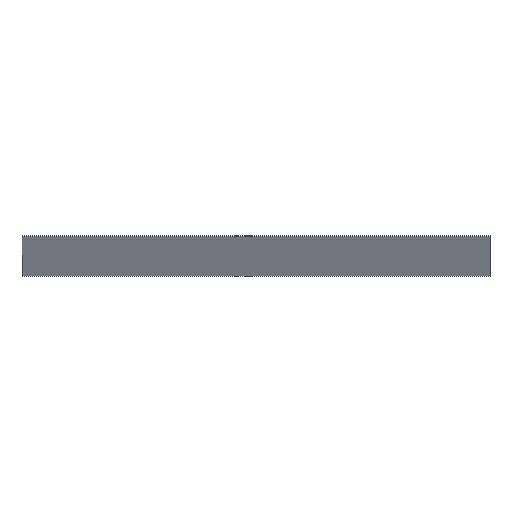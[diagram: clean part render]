
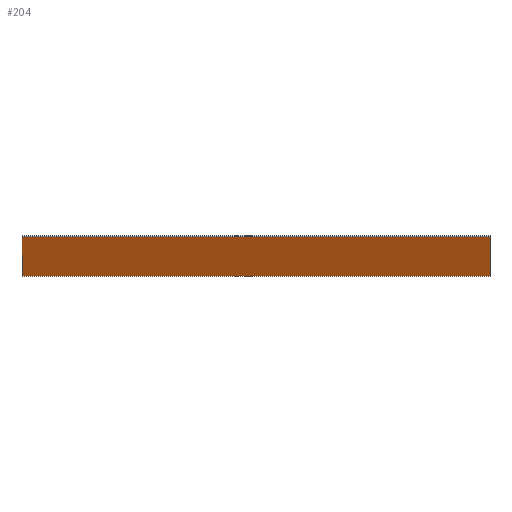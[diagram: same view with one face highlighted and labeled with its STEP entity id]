
A CAD part, left-side view. The second image highlights one B-rep face of the part: STEP entity #204.
In plain terms, the highlighted planar face has unit normal (-0.906, 0, -0.423).
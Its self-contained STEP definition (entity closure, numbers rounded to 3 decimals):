
#44 = PLANE('',#45);
#45 = AXIS2_PLACEMENT_3D('',#46,#47,#48);
#46 = CARTESIAN_POINT('',(175.086,-110.,12.388));
#47 = DIRECTION('',(-0.,-1.,0.));
#48 = DIRECTION('',(-0.475,0.,0.88));
#70 = PLANE('',#71);
#71 = AXIS2_PLACEMENT_3D('',#72,#73,#74);
#72 = CARTESIAN_POINT('',(170.733,-0.15,21.723));
#73 = DIRECTION('',(0.423,0.,-0.906));
#74 = DIRECTION('',(-0.906,0.,-0.423));
#97 = PLANE('',#98);
#98 = AXIS2_PLACEMENT_3D('',#99,#100,#101);
#99 = CARTESIAN_POINT('',(175.086,-0.15,12.388));
#100 = DIRECTION('',(-0.,-1.,0.));
#101 = DIRECTION('',(-0.475,0.,0.88));
#121 = PLANE('',#122);
#122 = AXIS2_PLACEMENT_3D('',#123,#124,#125);
#123 = CARTESIAN_POINT('',(174.542,-0.15,12.134));
#124 = DIRECTION('',(-0.423,0.,0.906));
#125 = DIRECTION('',(0.906,0.,0.423));
#136 = VERTEX_POINT('',#137);
#137 = CARTESIAN_POINT('',(170.189,-110.,21.469));
#158 = EDGE_CURVE('',#136,#159,#161,.T.);
#159 = VERTEX_POINT('',#160);
#160 = CARTESIAN_POINT('',(170.189,-0.15,21.469));
#161 = SURFACE_CURVE('',#162,(#165,#171),.PCURVE_S1.);
#162 = B_SPLINE_CURVE_WITH_KNOTS('',1,(#163,#164),.UNSPECIFIED.,.F.,.F.,
  (2,2),(0.,1.),.PIECEWISE_BEZIER_KNOTS.);
#163 = CARTESIAN_POINT('',(170.189,-110.,21.469));
#164 = CARTESIAN_POINT('',(170.189,-0.15,21.469));
#165 = PCURVE('',#70,#166);
#166 = DEFINITIONAL_REPRESENTATION('',(#167),#170);
#167 = B_SPLINE_CURVE_WITH_KNOTS('',1,(#168,#169),.UNSPECIFIED.,.F.,.F.,
  (2,2),(0.,1.),.PIECEWISE_BEZIER_KNOTS.);
#168 = CARTESIAN_POINT('',(0.6,-109.85));
#169 = CARTESIAN_POINT('',(0.6,0.));
#170 = ( GEOMETRIC_REPRESENTATION_CONTEXT(2) 
PARAMETRIC_REPRESENTATION_CONTEXT() REPRESENTATION_CONTEXT('2D SPACE',''
  ) );
#171 = PCURVE('',#172,#177);
#172 = PLANE('',#173);
#173 = AXIS2_PLACEMENT_3D('',#174,#175,#176);
#174 = CARTESIAN_POINT('',(170.189,-0.15,21.469));
#175 = DIRECTION('',(0.906,-0.,0.423));
#176 = DIRECTION('',(0.423,0.,-0.906));
#177 = DEFINITIONAL_REPRESENTATION('',(#178),#181);
#178 = B_SPLINE_CURVE_WITH_KNOTS('',1,(#179,#180),.UNSPECIFIED.,.F.,.F.,
  (2,2),(0.,1.),.PIECEWISE_BEZIER_KNOTS.);
#179 = CARTESIAN_POINT('',(0.,-109.85));
#180 = CARTESIAN_POINT('',(0.,0.));
#181 = ( GEOMETRIC_REPRESENTATION_CONTEXT(2) 
PARAMETRIC_REPRESENTATION_CONTEXT() REPRESENTATION_CONTEXT('2D SPACE',''
  ) );
#204 = ADVANCED_FACE('',(#205),#172,.F.);
#205 = FACE_BOUND('',#206,.F.);
#206 = EDGE_LOOP('',(#207,#230,#250,#271));
#207 = ORIENTED_EDGE('',*,*,#208,.T.);
#208 = EDGE_CURVE('',#136,#209,#211,.T.);
#209 = VERTEX_POINT('',#210);
#210 = CARTESIAN_POINT('',(174.542,-110.,12.134));
#211 = SURFACE_CURVE('',#212,(#216,#223),.PCURVE_S1.);
#212 = LINE('',#213,#214);
#213 = CARTESIAN_POINT('',(170.189,-110.,21.469));
#214 = VECTOR('',#215,1.);
#215 = DIRECTION('',(0.423,0.,-0.906));
#216 = PCURVE('',#172,#217);
#217 = DEFINITIONAL_REPRESENTATION('',(#218),#222);
#218 = LINE('',#219,#220);
#219 = CARTESIAN_POINT('',(0.,-109.85));
#220 = VECTOR('',#221,1.);
#221 = DIRECTION('',(1.,0.));
#222 = ( GEOMETRIC_REPRESENTATION_CONTEXT(2) 
PARAMETRIC_REPRESENTATION_CONTEXT() REPRESENTATION_CONTEXT('2D SPACE',''
  ) );
#223 = PCURVE('',#44,#224);
#224 = DEFINITIONAL_REPRESENTATION('',(#225),#229);
#225 = LINE('',#226,#227);
#226 = CARTESIAN_POINT('',(10.317,0.));
#227 = VECTOR('',#228,1.);
#228 = DIRECTION('',(-0.998,0.058));
#229 = ( GEOMETRIC_REPRESENTATION_CONTEXT(2) 
PARAMETRIC_REPRESENTATION_CONTEXT() REPRESENTATION_CONTEXT('2D SPACE',''
  ) );
#230 = ORIENTED_EDGE('',*,*,#231,.T.);
#231 = EDGE_CURVE('',#209,#232,#234,.T.);
#232 = VERTEX_POINT('',#233);
#233 = CARTESIAN_POINT('',(174.542,-0.15,12.134));
#234 = SURFACE_CURVE('',#235,(#238,#244),.PCURVE_S1.);
#235 = B_SPLINE_CURVE_WITH_KNOTS('',1,(#236,#237),.UNSPECIFIED.,.F.,.F.,
  (2,2),(0.,1.),.PIECEWISE_BEZIER_KNOTS.);
#236 = CARTESIAN_POINT('',(174.542,-110.,12.134));
#237 = CARTESIAN_POINT('',(174.542,-0.15,12.134));
#238 = PCURVE('',#172,#239);
#239 = DEFINITIONAL_REPRESENTATION('',(#240),#243);
#240 = B_SPLINE_CURVE_WITH_KNOTS('',1,(#241,#242),.UNSPECIFIED.,.F.,.F.,
  (2,2),(0.,1.),.PIECEWISE_BEZIER_KNOTS.);
#241 = CARTESIAN_POINT('',(10.3,-109.85));
#242 = CARTESIAN_POINT('',(10.3,0.));
#243 = ( GEOMETRIC_REPRESENTATION_CONTEXT(2) 
PARAMETRIC_REPRESENTATION_CONTEXT() REPRESENTATION_CONTEXT('2D SPACE',''
  ) );
#244 = PCURVE('',#121,#245);
#245 = DEFINITIONAL_REPRESENTATION('',(#246),#249);
#246 = B_SPLINE_CURVE_WITH_KNOTS('',1,(#247,#248),.UNSPECIFIED.,.F.,.F.,
  (2,2),(0.,1.),.PIECEWISE_BEZIER_KNOTS.);
#247 = CARTESIAN_POINT('',(0.,-109.85));
#248 = CARTESIAN_POINT('',(0.,0.));
#249 = ( GEOMETRIC_REPRESENTATION_CONTEXT(2) 
PARAMETRIC_REPRESENTATION_CONTEXT() REPRESENTATION_CONTEXT('2D SPACE',''
  ) );
#250 = ORIENTED_EDGE('',*,*,#251,.F.);
#251 = EDGE_CURVE('',#159,#232,#252,.T.);
#252 = SURFACE_CURVE('',#253,(#257,#264),.PCURVE_S1.);
#253 = LINE('',#254,#255);
#254 = CARTESIAN_POINT('',(170.189,-0.15,21.469));
#255 = VECTOR('',#256,1.);
#256 = DIRECTION('',(0.423,0.,-0.906));
#257 = PCURVE('',#172,#258);
#258 = DEFINITIONAL_REPRESENTATION('',(#259),#263);
#259 = LINE('',#260,#261);
#260 = CARTESIAN_POINT('',(0.,0.));
#261 = VECTOR('',#262,1.);
#262 = DIRECTION('',(1.,0.));
#263 = ( GEOMETRIC_REPRESENTATION_CONTEXT(2) 
PARAMETRIC_REPRESENTATION_CONTEXT() REPRESENTATION_CONTEXT('2D SPACE',''
  ) );
#264 = PCURVE('',#97,#265);
#265 = DEFINITIONAL_REPRESENTATION('',(#266),#270);
#266 = LINE('',#267,#268);
#267 = CARTESIAN_POINT('',(10.317,0.));
#268 = VECTOR('',#269,1.);
#269 = DIRECTION('',(-0.998,0.058));
#270 = ( GEOMETRIC_REPRESENTATION_CONTEXT(2) 
PARAMETRIC_REPRESENTATION_CONTEXT() REPRESENTATION_CONTEXT('2D SPACE',''
  ) );
#271 = ORIENTED_EDGE('',*,*,#158,.F.);
